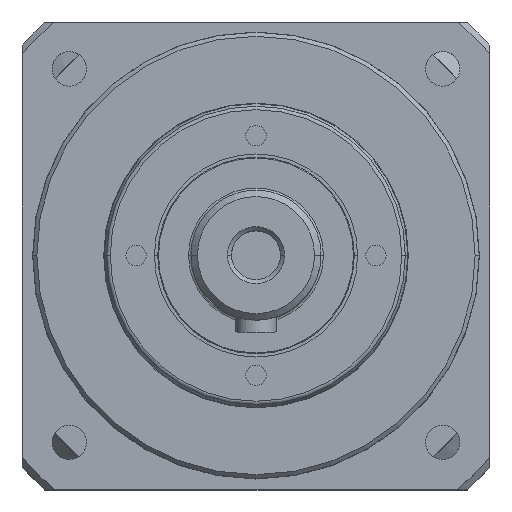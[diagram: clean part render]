
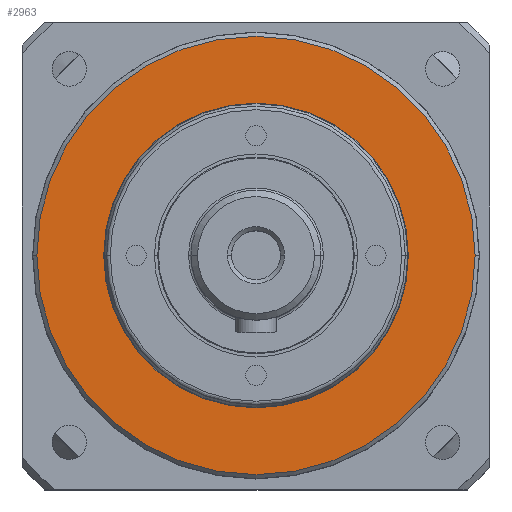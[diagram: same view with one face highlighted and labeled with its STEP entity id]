
A CAD part, top view. The second image highlights one B-rep face of the part: STEP entity #2963.
In plain terms, the highlighted planar face has unit normal (0, 0, 1).
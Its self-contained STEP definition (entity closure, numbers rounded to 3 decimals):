
#916=CARTESIAN_POINT('',(0.,0.,80.2));
#917=DIRECTION('',(0.,0.,-1.));
#918=DIRECTION('',(-1.,0.,0.));
#919=AXIS2_PLACEMENT_3D('',#916,#917,#918);
#921=CARTESIAN_POINT('',(0.,0.,80.2));
#922=DIRECTION('',(0.,0.,-1.));
#923=DIRECTION('',(1.,0.,0.));
#924=AXIS2_PLACEMENT_3D('',#921,#922,#923);
#926=CARTESIAN_POINT('',(0.,0.,80.2));
#927=DIRECTION('',(0.,0.,1.));
#928=DIRECTION('',(-1.,0.,0.));
#929=AXIS2_PLACEMENT_3D('',#926,#927,#928);
#944=CARTESIAN_POINT('',(0.,0.,80.2));
#945=DIRECTION('',(0.,0.,1.));
#946=DIRECTION('',(1.,0.,0.));
#947=AXIS2_PLACEMENT_3D('',#944,#945,#946);
#2486=CARTESIAN_POINT('',(-37.5,0.,80.2));
#2487=CARTESIAN_POINT('',(37.5,0.,80.2));
#2488=VERTEX_POINT('',#2486);
#2489=VERTEX_POINT('',#2487);
#2786=CARTESIAN_POINT('',(53.95,0.,80.2));
#2787=CARTESIAN_POINT('',(-53.95,0.,80.2));
#2788=VERTEX_POINT('',#2786);
#2789=VERTEX_POINT('',#2787);
#2948=CARTESIAN_POINT('',(0.,0.,80.2));
#2949=DIRECTION('',(0.,0.,1.));
#2950=DIRECTION('',(1.,0.,0.));
#2951=AXIS2_PLACEMENT_3D('',#2948,#2949,#2950);
#2952=PLANE('',#2951);
#2954=ORIENTED_EDGE('',*,*,#2953,.F.);
#2956=ORIENTED_EDGE('',*,*,#2955,.F.);
#2957=EDGE_LOOP('',(#2954,#2956));
#2958=FACE_OUTER_BOUND('',#2957,.F.);
#2959=ORIENTED_EDGE('',*,*,#2928,.F.);
#2960=ORIENTED_EDGE('',*,*,#2942,.F.);
#2961=EDGE_LOOP('',(#2959,#2960));
#2962=FACE_BOUND('',#2961,.F.);
#2963=ADVANCED_FACE('',(#2958,#2962),#2952,.T.);
#920=CIRCLE('',#919,37.5);
#925=CIRCLE('',#924,37.5);
#930=CIRCLE('',#929,53.95);
#948=CIRCLE('',#947,53.95);
#2928=EDGE_CURVE('',#2488,#2489,#920,.T.);
#2942=EDGE_CURVE('',#2489,#2488,#925,.T.);
#2953=EDGE_CURVE('',#2789,#2788,#930,.T.);
#2955=EDGE_CURVE('',#2788,#2789,#948,.T.);
